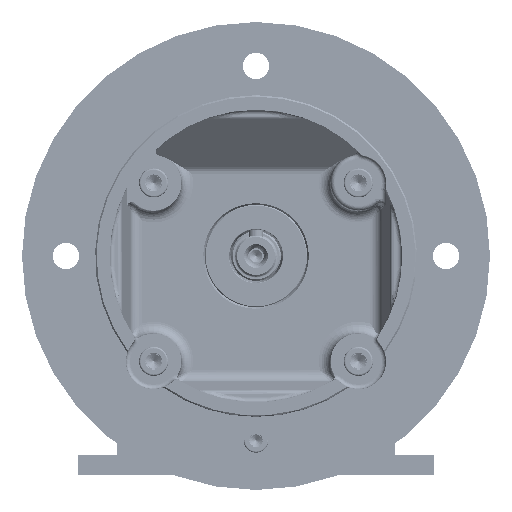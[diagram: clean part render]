
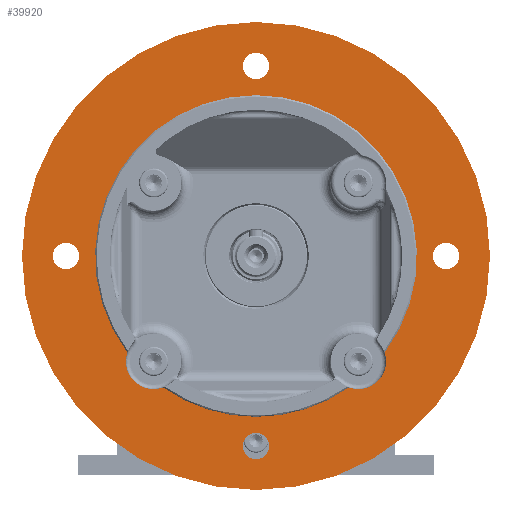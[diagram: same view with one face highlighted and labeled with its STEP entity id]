
A CAD part, front view. The second image highlights one B-rep face of the part: STEP entity #39920.
In plain terms, the highlighted planar face has unit normal (0, -1, 0) as drawn and (1, 0, 0) by its records, which use the part's own axes.
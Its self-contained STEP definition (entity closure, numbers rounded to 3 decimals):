
#1753=FACE_BOUND('',#7602,.T.);
#1754=FACE_BOUND('',#7603,.T.);
#1755=FACE_BOUND('',#7604,.T.);
#1756=FACE_BOUND('',#7605,.T.);
#1757=FACE_BOUND('',#7606,.T.);
#2690=PLANE('',#44684);
#4963=FACE_OUTER_BOUND('',#7601,.T.);
#7601=EDGE_LOOP('',(#34398));
#7602=EDGE_LOOP('',(#34399));
#7603=EDGE_LOOP('',(#34400));
#7604=EDGE_LOOP('',(#34401));
#7605=EDGE_LOOP('',(#34402,#34403,#34404,#34405));
#7606=EDGE_LOOP('',(#34406));
#15217=CIRCLE('',#44419,55.);
#15225=CIRCLE('',#44438,9.5);
#15233=CIRCLE('',#44449,9.5);
#15261=CIRCLE('',#44487,55.);
#15284=CIRCLE('',#44543,4.5);
#15286=CIRCLE('',#44546,4.5);
#15288=CIRCLE('',#44549,4.5);
#15290=CIRCLE('',#44552,4.5);
#15366=CIRCLE('',#44685,80.);
#18908=VERTEX_POINT('',#91712);
#18910=VERTEX_POINT('',#91715);
#18934=VERTEX_POINT('',#91822);
#18944=VERTEX_POINT('',#91957);
#19033=VERTEX_POINT('',#94636);
#19035=VERTEX_POINT('',#94642);
#19037=VERTEX_POINT('',#94648);
#19039=VERTEX_POINT('',#94654);
#19070=VERTEX_POINT('',#101587);
#24011=EDGE_CURVE('',#18908,#18910,#15217,.T.);
#24037=EDGE_CURVE('',#18934,#18908,#15225,.T.);
#24051=EDGE_CURVE('',#18910,#18944,#15233,.T.);
#24094=EDGE_CURVE('',#18944,#18934,#15261,.T.);
#24189=EDGE_CURVE('',#19033,#19033,#15284,.T.);
#24192=EDGE_CURVE('',#19035,#19035,#15286,.T.);
#24195=EDGE_CURVE('',#19037,#19037,#15288,.T.);
#24198=EDGE_CURVE('',#19039,#19039,#15290,.T.);
#24319=EDGE_CURVE('',#19070,#19070,#15366,.T.);
#34398=ORIENTED_EDGE('',*,*,#24319,.T.);
#34399=ORIENTED_EDGE('',*,*,#24192,.F.);
#34400=ORIENTED_EDGE('',*,*,#24195,.F.);
#34401=ORIENTED_EDGE('',*,*,#24198,.F.);
#34402=ORIENTED_EDGE('',*,*,#24094,.F.);
#34403=ORIENTED_EDGE('',*,*,#24051,.F.);
#34404=ORIENTED_EDGE('',*,*,#24011,.F.);
#34405=ORIENTED_EDGE('',*,*,#24037,.F.);
#34406=ORIENTED_EDGE('',*,*,#24189,.F.);
#39920=ADVANCED_FACE('',(#4963,#1753,#1754,#1755,#1756,#1757),#2690,.T.);
#44419=AXIS2_PLACEMENT_3D('',#91716,#54439,#54440);
#44438=AXIS2_PLACEMENT_3D('',#91824,#54486,#54487);
#44449=AXIS2_PLACEMENT_3D('',#91958,#54510,#54511);
#44487=AXIS2_PLACEMENT_3D('',#92120,#54595,#54596);
#44543=AXIS2_PLACEMENT_3D('',#94638,#54722,#54723);
#44546=AXIS2_PLACEMENT_3D('',#94644,#54729,#54730);
#44549=AXIS2_PLACEMENT_3D('',#94650,#54736,#54737);
#44552=AXIS2_PLACEMENT_3D('',#94656,#54743,#54744);
#44684=AXIS2_PLACEMENT_3D('',#101586,#55017,#55018);
#44685=AXIS2_PLACEMENT_3D('',#101588,#55019,#55020);
#54439=DIRECTION('center_axis',(1.,0.,0.));
#54440=DIRECTION('ref_axis',(0.,-1.,0.));
#54486=DIRECTION('center_axis',(1.,0.,0.));
#54487=DIRECTION('ref_axis',(0.,0.,1.));
#54510=DIRECTION('center_axis',(1.,0.,0.));
#54511=DIRECTION('ref_axis',(0.,0.,1.));
#54595=DIRECTION('center_axis',(1.,0.,0.));
#54596=DIRECTION('ref_axis',(0.,-1.,0.));
#54722=DIRECTION('center_axis',(1.,0.,0.));
#54723=DIRECTION('ref_axis',(0.,0.,-1.));
#54729=DIRECTION('center_axis',(1.,0.,0.));
#54730=DIRECTION('ref_axis',(0.,0.,-1.));
#54736=DIRECTION('center_axis',(1.,0.,0.));
#54737=DIRECTION('ref_axis',(0.,0.,-1.));
#54743=DIRECTION('center_axis',(1.,0.,0.));
#54744=DIRECTION('ref_axis',(0.,0.,-1.));
#55017=DIRECTION('center_axis',(1.,0.,0.));
#55018=DIRECTION('ref_axis',(0.,1.,0.));
#55019=DIRECTION('center_axis',(1.,0.,0.));
#55020=DIRECTION('ref_axis',(0.,-1.,0.));
#91712=CARTESIAN_POINT('',(174.465,-14.6,-46.031));
#91715=CARTESIAN_POINT('',(174.465,-14.6,41.988));
#91716=CARTESIAN_POINT('Origin',(174.465,18.387,-2.021));
#91822=CARTESIAN_POINT('',(174.465,-26.534,-33.756));
#91824=CARTESIAN_POINT('Origin',(174.465,-17.613,-37.021));
#91957=CARTESIAN_POINT('',(174.465,-26.534,29.713));
#91958=CARTESIAN_POINT('Origin',(174.465,-17.613,32.979));
#92120=CARTESIAN_POINT('Origin',(174.465,18.387,-2.021));
#94636=CARTESIAN_POINT('',(174.465,83.387,2.479));
#94638=CARTESIAN_POINT('Origin',(174.465,83.387,-2.021));
#94642=CARTESIAN_POINT('',(174.465,18.387,-62.521));
#94644=CARTESIAN_POINT('Origin',(174.465,18.387,-67.021));
#94648=CARTESIAN_POINT('',(174.465,-46.613,2.479));
#94650=CARTESIAN_POINT('Origin',(174.465,-46.613,-2.021));
#94654=CARTESIAN_POINT('',(174.465,18.387,67.479));
#94656=CARTESIAN_POINT('Origin',(174.465,18.387,62.979));
#101586=CARTESIAN_POINT('Origin',(174.465,-4.113,-2.021));
#101587=CARTESIAN_POINT('',(174.465,98.387,-2.021));
#101588=CARTESIAN_POINT('Origin',(174.465,18.387,-2.021));
